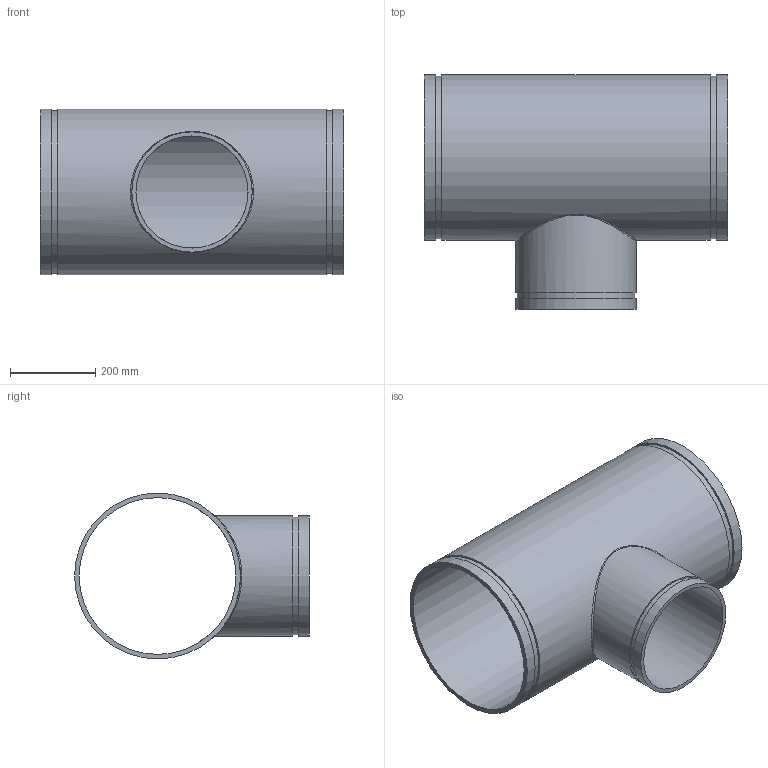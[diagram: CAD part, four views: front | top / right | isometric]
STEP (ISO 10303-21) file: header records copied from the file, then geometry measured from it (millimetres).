
FILE_DESCRIPTION(/* description */ ('VIC REDUCING TEE No 25-C','CAx-IF Rec.Pracs.---Representation and Presentation of Product Manufacturing Information (PMI)---4.0---2014-10-13'),/* implementation_level */ '2;1');
FILE_NAME(/* name */ 'C:\Users\Vjadhav\AppData\Roaming\Autodesk\ApplicationPlugins\Back Up\Victaulic_AWWA_Tee Reducing_No 25-C (DRG)\Victaulic_AWWA_Tee Reducing_No 25-C (DRG)_14.0x10.0 (350x250).stp',/* time_stamp */ '2020-08-18T18:18:09+06:00',/* author */ ('CORINNE GRAY'),/* organization */ ('Victaulic'),/* preprocessor_version */ 'ST-DEVELOPER v17.2',/* originating_system */ 'Autodesk Inventor 2019',/* authorisation */ '');
FILE_SCHEMA (('AP242_MANAGED_MODEL_BASED_3D_ENGINEERING_MIM_LF { 1 0 10303 442 1 1 4 }'));
Length unit declared in the file: inch
Products named in the file (1): 25C-14.0x10.0
Bounding box: 711.2 x 549.91 x 388.62 mm (x, y, z)
Volume: 9739233.1 mm3; surface area: 1953358.9 mm2
Topology: 1 solids, 1 shells, 20 faces, 44 edges, 33 vertices
Faces by surface type: cylinder 10, plane 9, bspline 1
Full cylindrical faces by diameter (mm): 262.636 x1, 274.65 x1, 281.94 x2, 367.284 x1, 380.213 x2, 388.62 x3
Entity records: 1095 total; most frequent: CARTESIAN_POINT 471, DIRECTION 135, ORIENTED_EDGE 90, AXIS2_PLACEMENT_3D 62, EDGE_CURVE 45, VERTEX_POINT 34, EDGE_LOOP 31, CIRCLE 29
